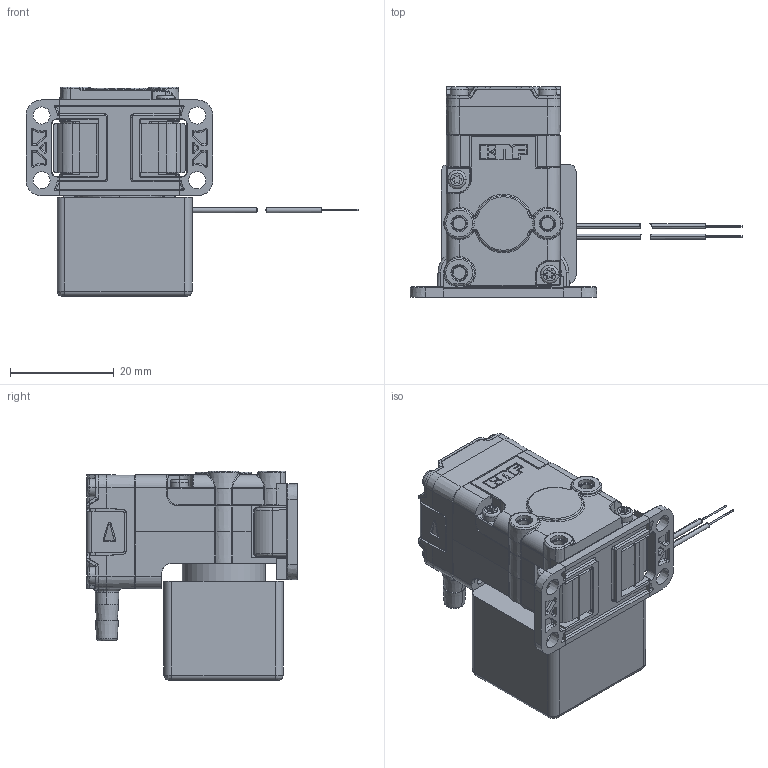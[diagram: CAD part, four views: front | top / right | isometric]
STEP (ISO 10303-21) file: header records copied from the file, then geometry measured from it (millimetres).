
FILE_DESCRIPTION((''),'2;1');
FILE_NAME('CAD1159361_ASM','2025-12-12T11:42:38',('UHermann'),('KNF Flodos AG, 6210 Sursee, Switzerland'),'CREO PARAMETRIC BY PTC INC, 2024401','CREO PARAMETRIC BY PTC INC, 2024401','');
FILE_SCHEMA(('AP242_MANAGED_MODEL_BASED_3D_ENGINEERING_MIM_LF { 1 0 10303 442 1 1 4 }'));
Products named in the file (5): BODY_DCB_1_1; HEAD_1_1_2_3_4; CLIP_1_1_2_3_4; CAD1159357_ASM_1_1_ASM; CAD1159361_ASM
Assembly tree (4 placements, depth 3):
  CAD1159361_ASM
    CAD1159357_ASM_1_1_ASM
      BODY_DCB_1_1
      HEAD_1_1_2_3_4
      CLIP_1_1_2_3_4
Bounding box: 64 x 40.6 x 40.4 mm (x, y, z)
Volume: 28398.5 mm3; surface area: 12235.8 mm2
Topology: 5 solids, 7 shells, 1854 faces, 4868 edges, 3046 vertices
Faces by surface type: cylinder 678, plane 614, torus 180, bspline 174, cone 149, sphere 55, extrusion 4
Entity records: 87577 total; most frequent: CARTESIAN_POINT 27538, ORIENTED_EDGE 9508, DIRECTION 9437, EDGE_CURVE 4772, AXIS2_PLACEMENT_3D 3568, VERTEX_POINT 2976, PRESENTATION_STYLE_ASSIGNMENT 2331, STYLED_ITEM 2331
